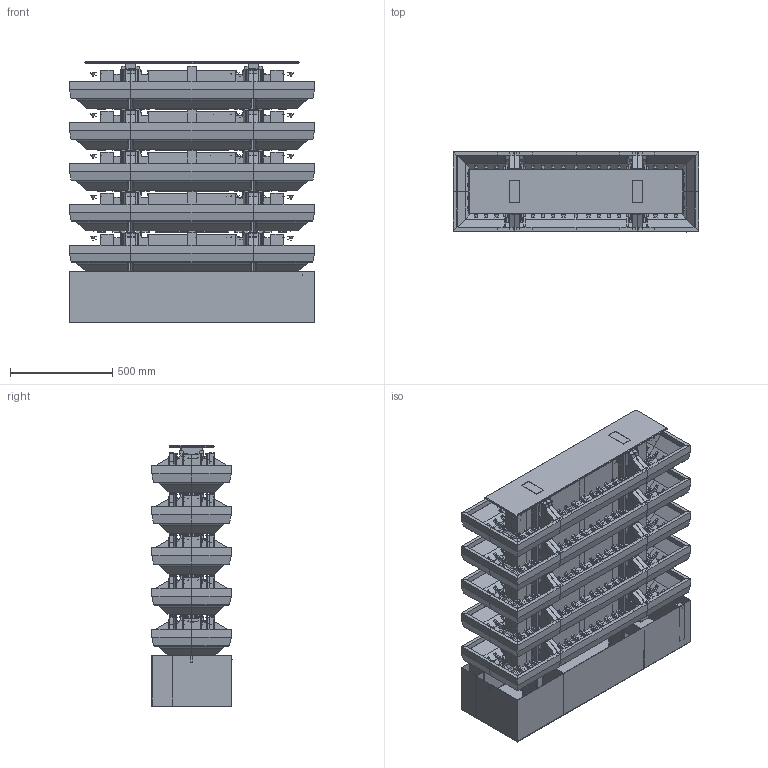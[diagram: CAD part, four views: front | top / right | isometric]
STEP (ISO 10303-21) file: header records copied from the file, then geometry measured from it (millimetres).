
FILE_DESCRIPTION(/* description */ (''),/* implementation_level */ '2;1');
FILE_NAME(/* name */ 'VP_EASY_Bifacciale 120 3D',/* time_stamp */ '2023-04-12T09:24:11+02:00',/* author */ (''),/* organization */ (''),/* preprocessor_version */ 'ST-DEVELOPER v16.5',/* originating_system */ 'Rhino 7.20',/* authorisation */ '');
FILE_SCHEMA (('CONFIG_CONTROL_DESIGN'));
Products named in the file (1): Document
Bounding box: 1200.01 x 393.03 x 1276.55 mm (x, y, z)
Volume: 1927015.2 mm3; surface area: 18868553.7 mm2
Topology: 278 solids, 470 shells, 16691 faces, 43290 edges, 26596 vertices
Faces by surface type: plane 9068, cylinder 5076, bspline 2547
Full cylindrical faces by diameter (mm): 5 x140, 6 x20, 8 x1, 12 x1, 13 x60, 20 x1, 24 x1, 24.782 x30, 27.937 x5, 27.99 x35
Entity records: 786612 total; most frequent: CARTESIAN_POINT 516446, ORIENTED_EDGE 81277, EDGE_CURVE 43237, VERTEX_POINT 26589, B_SPLINE_CURVE_WITH_KNOTS 24600, EDGE_LOOP 16943, ADVANCED_FACE 16691, FACE_OUTER_BOUND 16691
